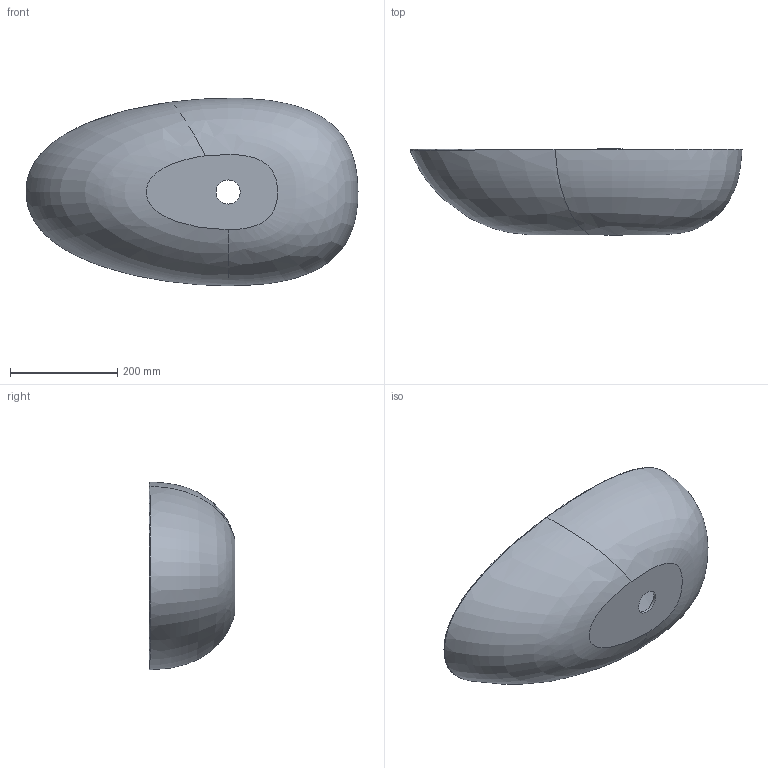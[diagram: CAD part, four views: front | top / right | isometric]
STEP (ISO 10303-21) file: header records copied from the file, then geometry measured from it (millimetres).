
FILE_DESCRIPTION (( 'STEP AP203' ), '1' );
FILE_NAME ('T06(15)×îºó¶¨.STEP', '2013-09-24T07:04:24', ( 'Microsoft' ), ( 'Microsoft' ), 'SwSTEP 2.0', 'SolidWorks 2011', '' );
FILE_SCHEMA (( 'CONFIG_CONTROL_DESIGN' ));
Length unit declared in the file: millimetre
Products named in the file (1): T06(15)郔綴隅
Bounding box: 619.3 x 160 x 349.88 mm (x, y, z)
Volume: 4200139.9 mm3; surface area: 601223.5 mm2
Topology: 1 solids, 1 shells, 16 faces, 39 edges, 25 vertices
Faces by surface type: bspline 10, cylinder 2, cone 2, plane 2
Entity records: 8055 total; most frequent: CARTESIAN_POINT 7667, ORIENTED_EDGE 78, DIRECTION 40, EDGE_CURVE 39, VERTEX_POINT 25, B_SPLINE_CURVE_WITH_KNOTS 24, AXIS2_PLACEMENT_3D 18, EDGE_LOOP 18
